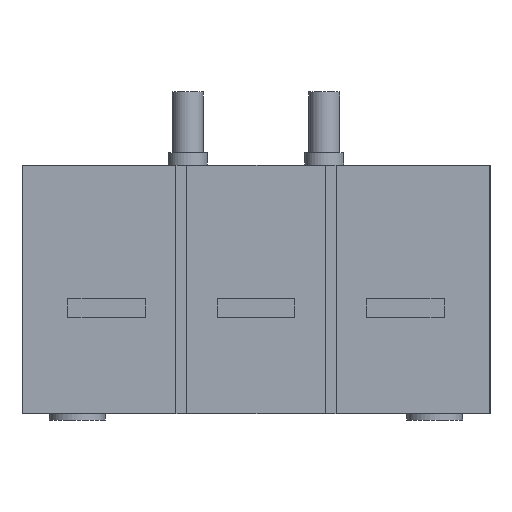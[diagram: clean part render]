
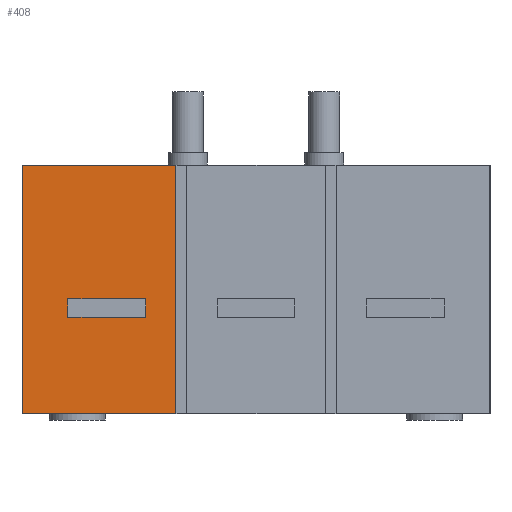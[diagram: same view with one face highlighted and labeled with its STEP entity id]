
A CAD part, left-side view. The second image highlights one B-rep face of the part: STEP entity #408.
In plain terms, the highlighted planar face has unit normal (-1, 0, 0).
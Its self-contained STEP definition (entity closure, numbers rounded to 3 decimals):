
#408=ADVANCED_FACE('',(#768,#769),#582,.T.);
#582=PLANE('',#3554);
#768=FACE_BOUND('',#1011,.T.);
#769=FACE_BOUND('',#1012,.T.);
#1011=EDGE_LOOP('',(#1592,#1593,#1594,#1595));
#1012=EDGE_LOOP('',(#1596,#1597,#1598,#1599));
#1592=ORIENTED_EDGE('',*,*,#2572,.T.);
#1593=ORIENTED_EDGE('',*,*,#2573,.F.);
#1594=ORIENTED_EDGE('',*,*,#2574,.F.);
#1595=ORIENTED_EDGE('',*,*,#2575,.T.);
#1596=ORIENTED_EDGE('',*,*,#2576,.T.);
#1597=ORIENTED_EDGE('',*,*,#2424,.F.);
#1598=ORIENTED_EDGE('',*,*,#2501,.F.);
#1599=ORIENTED_EDGE('',*,*,#2577,.T.);
#2106=VERTEX_POINT('',#4888);
#2107=VERTEX_POINT('',#4890);
#2165=VERTEX_POINT('',#5035);
#2216=VERTEX_POINT('',#5214);
#2217=VERTEX_POINT('',#5215);
#2218=VERTEX_POINT('',#5217);
#2219=VERTEX_POINT('',#5219);
#2220=VERTEX_POINT('',#5222);
#2424=EDGE_CURVE('',#2106,#2107,#2846,.T.);
#2501=EDGE_CURVE('',#2165,#2106,#2899,.T.);
#2572=EDGE_CURVE('',#2216,#2217,#2940,.T.);
#2573=EDGE_CURVE('',#2218,#2217,#2941,.T.);
#2574=EDGE_CURVE('',#2219,#2218,#2942,.T.);
#2575=EDGE_CURVE('',#2219,#2216,#2943,.T.);
#2576=EDGE_CURVE('',#2220,#2107,#2944,.T.);
#2577=EDGE_CURVE('',#2165,#2220,#2945,.T.);
#2846=LINE('',#4889,#3153);
#2899=LINE('',#5036,#3206);
#2940=LINE('',#5213,#3247);
#2941=LINE('',#5216,#3248);
#2942=LINE('',#5218,#3249);
#2943=LINE('',#5220,#3250);
#2944=LINE('',#5221,#3251);
#2945=LINE('',#5223,#3252);
#3153=VECTOR('',#3889,1.);
#3206=VECTOR('',#4012,1.);
#3247=VECTOR('',#4225,1.);
#3248=VECTOR('',#4226,1.);
#3249=VECTOR('',#4227,1.);
#3250=VECTOR('',#4228,1.);
#3251=VECTOR('',#4229,1.);
#3252=VECTOR('',#4230,1.);
#3554=AXIS2_PLACEMENT_3D('',#5224,#4231,#4232);
#3889=DIRECTION('',(0.,0.,1.));
#4012=DIRECTION('',(0.,1.,0.));
#4225=DIRECTION('',(0.,-1.,0.));
#4226=DIRECTION('',(0.,0.,1.));
#4227=DIRECTION('',(0.,-1.,0.));
#4228=DIRECTION('',(0.,0.,1.));
#4229=DIRECTION('',(0.,1.,0.));
#4230=DIRECTION('',(0.,0.,1.));
#4231=DIRECTION('',(-1.,0.,0.));
#4232=DIRECTION('',(0.,-1.,0.));
#4888=CARTESIAN_POINT('',(-138.5,75.25,0.));
#4889=CARTESIAN_POINT('',(-138.5,75.25,95.));
#4890=CARTESIAN_POINT('',(-138.5,75.25,80.));
#5035=CARTESIAN_POINT('',(-138.5,25.75,0.));
#5036=CARTESIAN_POINT('',(-138.5,95.,0.));
#5213=CARTESIAN_POINT('',(-138.5,-23.,37.));
#5214=CARTESIAN_POINT('',(-138.5,60.5,37.));
#5215=CARTESIAN_POINT('',(-138.5,35.5,37.));
#5216=CARTESIAN_POINT('',(-138.5,35.5,55.));
#5217=CARTESIAN_POINT('',(-138.5,35.5,31.));
#5218=CARTESIAN_POINT('',(-138.5,-23.,31.));
#5219=CARTESIAN_POINT('',(-138.5,60.5,31.));
#5220=CARTESIAN_POINT('',(-138.5,60.5,55.));
#5221=CARTESIAN_POINT('',(-138.5,95.,80.));
#5222=CARTESIAN_POINT('',(-138.5,25.75,80.));
#5223=CARTESIAN_POINT('',(-138.5,25.75,80.));
#5224=CARTESIAN_POINT('',(-138.5,75.25,95.));
